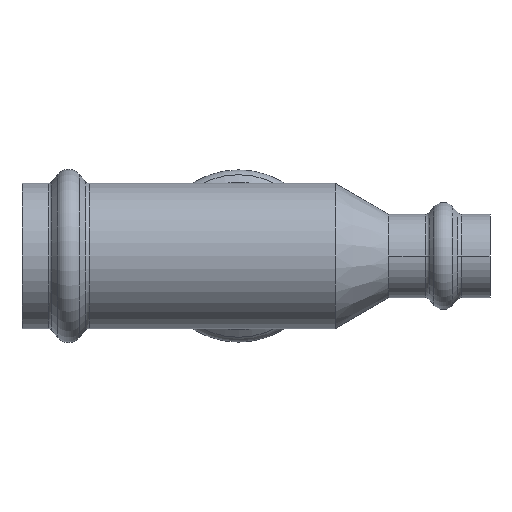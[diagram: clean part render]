
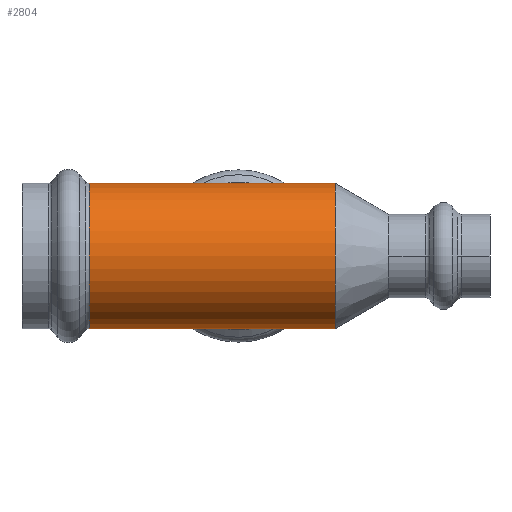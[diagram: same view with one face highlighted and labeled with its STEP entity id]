
A CAD part, front view. The second image highlights one B-rep face of the part: STEP entity #2804.
In plain terms, the highlighted cylindrical face has radius 15.6 mm (diameter 31.2 mm), a partial arc.
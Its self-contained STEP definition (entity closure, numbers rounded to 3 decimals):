
#15 = CARTESIAN_POINT ( 'NONE',  ( -32.106, 0., 0. ) ) ;
#64 = DIRECTION ( 'NONE',  ( 1., 0., 0. ) ) ;
#128 = DIRECTION ( 'NONE',  ( -1., 0., 0. ) ) ;
#137 = EDGE_CURVE ( 'NONE', #911, #962, #3140, .T. ) ;
#171 = ORIENTED_EDGE ( 'NONE', *, *, #137, .T. ) ;
#282 = ORIENTED_EDGE ( 'NONE', *, *, #4939, .F. ) ;
#304 = CARTESIAN_POINT ( 'NONE',  ( -32.106, 0., 15.6 ) ) ;
#406 = DIRECTION ( 'NONE',  ( 0., 0., 1. ) ) ;
#475 = CIRCLE ( 'NONE', #1270, 15.6 ) ;
#590 = CIRCLE ( 'NONE', #4678, 15.6 ) ;
#814 = FACE_OUTER_BOUND ( 'NONE', #3189, .T. ) ;
#836 = VERTEX_POINT ( 'NONE', #2404 ) ;
#911 = VERTEX_POINT ( 'NONE', #2210 ) ;
#962 = VERTEX_POINT ( 'NONE', #304 ) ;
#1035 = CARTESIAN_POINT ( 'NONE',  ( -58.611, 0., 0. ) ) ;
#1215 = VERTEX_POINT ( 'NONE', #3306 ) ;
#1270 = AXIS2_PLACEMENT_3D ( 'NONE', #2349, #64, #2735 ) ;
#1586 = CYLINDRICAL_SURFACE ( 'NONE', #3879, 15.6 ) ;
#2210 = CARTESIAN_POINT ( 'NONE',  ( 20.727, 0., 15.6 ) ) ;
#2349 = CARTESIAN_POINT ( 'NONE',  ( 20.727, 0., 0. ) ) ;
#2404 = CARTESIAN_POINT ( 'NONE',  ( -32.106, 0., -15.6 ) ) ;
#2495 = DIRECTION ( 'NONE',  ( -1., 0., 0. ) ) ;
#2630 = EDGE_CURVE ( 'NONE', #1215, #836, #4848, .T. ) ;
#2687 = DIRECTION ( 'NONE',  ( 1., 0., 0. ) ) ;
#2734 = CARTESIAN_POINT ( 'NONE',  ( -58.611, 0., 15.6 ) ) ;
#2735 = DIRECTION ( 'NONE',  ( 0., 0., 1. ) ) ;
#2804 = ADVANCED_FACE ( 'NONE', ( #814 ), #1586, .T. ) ;
#2830 = VECTOR ( 'NONE', #2495, 1000. ) ;
#3130 = ORIENTED_EDGE ( 'NONE', *, *, #4821, .T. ) ;
#3140 = LINE ( 'NONE', #2734, #4024 ) ;
#3189 = EDGE_LOOP ( 'NONE', ( #4490, #282, #171, #3130 ) ) ;
#3299 = DIRECTION ( 'NONE',  ( -1., 0., 0. ) ) ;
#3306 = CARTESIAN_POINT ( 'NONE',  ( 20.727, 0., -15.6 ) ) ;
#3879 = AXIS2_PLACEMENT_3D ( 'NONE', #1035, #3299, #4059 ) ;
#4024 = VECTOR ( 'NONE', #128, 1000. ) ;
#4059 = DIRECTION ( 'NONE',  ( 0., 0., 1. ) ) ;
#4490 = ORIENTED_EDGE ( 'NONE', *, *, #2630, .F. ) ;
#4678 = AXIS2_PLACEMENT_3D ( 'NONE', #15, #2687, #406 ) ;
#4768 = CARTESIAN_POINT ( 'NONE',  ( -58.611, 0., -15.6 ) ) ;
#4821 = EDGE_CURVE ( 'NONE', #962, #836, #590, .T. ) ;
#4848 = LINE ( 'NONE', #4768, #2830 ) ;
#4939 = EDGE_CURVE ( 'NONE', #911, #1215, #475, .T. ) ;
